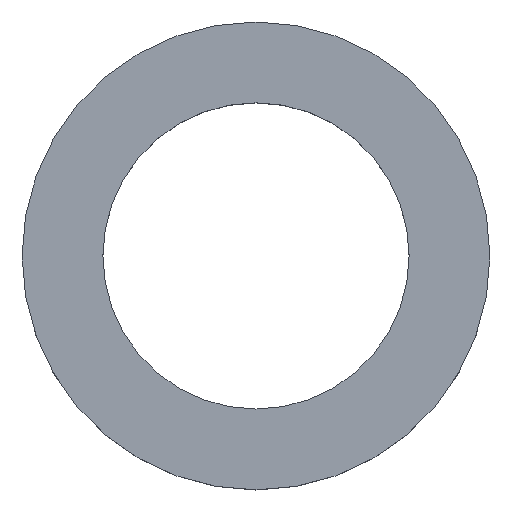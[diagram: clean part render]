
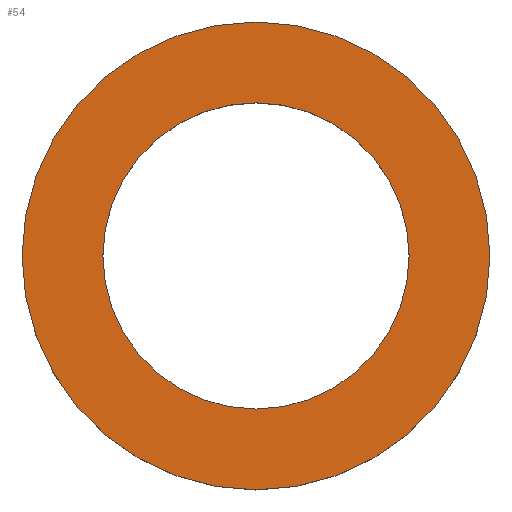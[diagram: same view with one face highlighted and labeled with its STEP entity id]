
A CAD part, top view. The second image highlights one B-rep face of the part: STEP entity #54.
In plain terms, the highlighted planar face has unit normal (0, 0, 1).
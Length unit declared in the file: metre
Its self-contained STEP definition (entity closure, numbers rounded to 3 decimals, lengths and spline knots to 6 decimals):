
#12=PLANE('',#75);
#18=ORIENTED_EDGE('',*,*,#22,.F.);
#19=ORIENTED_EDGE('',*,*,#24,.T.);
#22=EDGE_CURVE('',#26,#26,#30,.T.);
#24=EDGE_CURVE('',#28,#28,#32,.T.);
#26=VERTEX_POINT('',#98);
#28=VERTEX_POINT('',#103);
#30=CIRCLE('',#70,0.003325);
#32=CIRCLE('',#73,0.00508);
#38=EDGE_LOOP('',(#18));
#39=EDGE_LOOP('',(#19));
#46=FACE_BOUND('',#38,.T.);
#47=FACE_BOUND('',#39,.T.);
#54=ADVANCED_FACE('',(#46,#47),#12,.T.);
#70=AXIS2_PLACEMENT_3D('',#97,#81,#82);
#73=AXIS2_PLACEMENT_3D('',#102,#87,#88);
#75=AXIS2_PLACEMENT_3D('',#106,#91,#92);
#81=DIRECTION('',(0.,0.,1.));
#82=DIRECTION('',(1.,0.,0.));
#87=DIRECTION('',(0.,0.,1.));
#88=DIRECTION('',(1.,0.,0.));
#91=DIRECTION('',(0.,0.,1.));
#92=DIRECTION('',(1.,0.,0.));
#97=CARTESIAN_POINT('',(0.,0.01905,0.007938));
#98=CARTESIAN_POINT('',(0.003325,0.01905,0.007938));
#102=CARTESIAN_POINT('',(0.,0.01905,0.007938));
#103=CARTESIAN_POINT('',(0.00508,0.01905,0.007938));
#106=CARTESIAN_POINT('',(0.,0.,0.007938));
